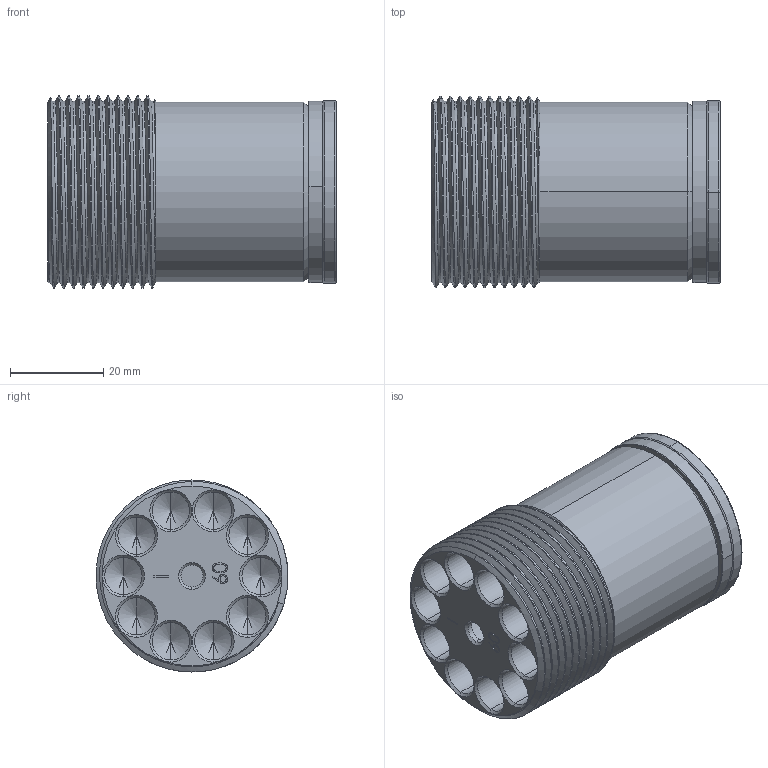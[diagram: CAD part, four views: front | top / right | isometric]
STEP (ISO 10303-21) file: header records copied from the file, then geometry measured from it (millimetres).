
FILE_DESCRIPTION (( 'STEP AP214' ), '1' );
FILE_NAME ('ICT-B-20-60.STEP', '2026-02-13T14:17:17', ( '' ), ( '' ), 'SwSTEP 2.0', 'SolidWorks 2025', '' );
FILE_SCHEMA (( 'AUTOMOTIVE_DESIGN' ));
Length unit declared in the file: inch
Products named in the file (1): ICT-B-20-60
Bounding box: 61.98 x 41.26 x 41.27 mm (x, y, z)
Volume: 52727.4 mm3; surface area: 20466.8 mm2
Topology: 1 solids, 2 shells, 194 faces, 460 edges, 272 vertices
Faces by surface type: cone 64, cylinder 64, plane 25, bspline 21, torus 18, sphere 2
Entity records: 9313 total; most frequent: CARTESIAN_POINT 5102, DIRECTION 872, ORIENTED_EDGE 870, EDGE_CURVE 435, AXIS2_PLACEMENT_3D 353, VERTEX_POINT 269, EDGE_LOOP 220, ADVANCED_FACE 194
